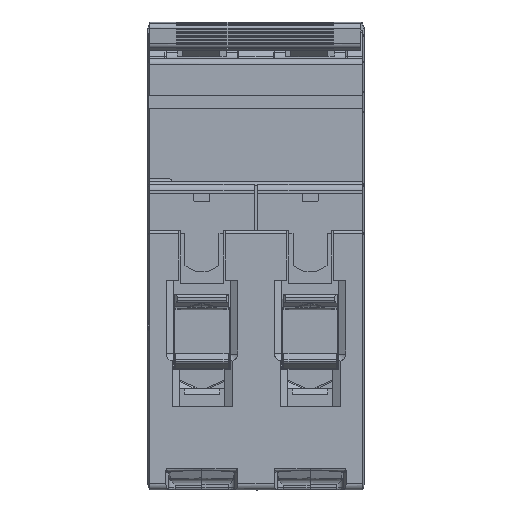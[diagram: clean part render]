
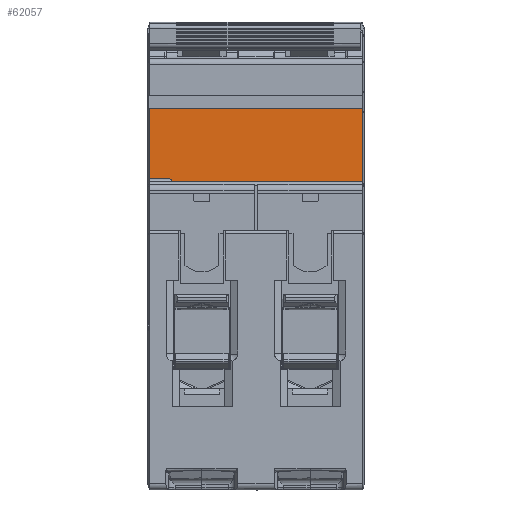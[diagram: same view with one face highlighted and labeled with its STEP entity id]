
A CAD part, front view. The second image highlights one B-rep face of the part: STEP entity #62057.
In plain terms, the highlighted planar face has unit normal (0, -1, 0).
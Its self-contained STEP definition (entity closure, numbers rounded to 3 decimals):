
#1932 = CARTESIAN_POINT ( 'NONE',  ( 28.961, -16.627, 12.604 ) ) ;
#3017 = CARTESIAN_POINT ( 'NONE',  ( 2.361, -16.627, 12.204 ) ) ;
#4422 = EDGE_CURVE ( 'NONE', #67682, #136456, #20298, .T. ) ;
#5695 = LINE ( 'NONE', #70250, #63555 ) ;
#6368 = ORIENTED_EDGE ( 'NONE', *, *, #120881, .T. ) ;
#8524 = ORIENTED_EDGE ( 'NONE', *, *, #97318, .T. ) ;
#8971 = CARTESIAN_POINT ( 'NONE',  ( 32.861, -16.627, 12.604 ) ) ;
#13345 = VERTEX_POINT ( 'NONE', #52852 ) ;
#13646 = ORIENTED_EDGE ( 'NONE', *, *, #80822, .T. ) ;
#15682 = PLANE ( 'NONE',  #71604 ) ;
#16455 = VECTOR ( 'NONE', #53288, 1000. ) ;
#16971 = ORIENTED_EDGE ( 'NONE', *, *, #80694, .T. ) ;
#18480 = ORIENTED_EDGE ( 'NONE', *, *, #132338, .T. ) ;
#19604 = LINE ( 'NONE', #139167, #77013 ) ;
#20298 = LINE ( 'NONE', #65513, #96714 ) ;
#21196 = ORIENTED_EDGE ( 'NONE', *, *, #47691, .T. ) ;
#23131 = VERTEX_POINT ( 'NONE', #3017 ) ;
#24954 = ORIENTED_EDGE ( 'NONE', *, *, #89967, .T. ) ;
#25155 = VECTOR ( 'NONE', #140224, 1000. ) ;
#25397 = VERTEX_POINT ( 'NONE', #107212 ) ;
#26428 = DIRECTION ( 'NONE',  ( 0., 0., 1. ) ) ;
#29536 = CARTESIAN_POINT ( 'NONE',  ( 2.361, -16.627, 11.604 ) ) ;
#30628 = CARTESIAN_POINT ( 'NONE',  ( 11.361, -16.627, 12.604 ) ) ;
#35228 = VERTEX_POINT ( 'NONE', #103164 ) ;
#35250 = DIRECTION ( 'NONE',  ( 0.707, 0., -0.707 ) ) ;
#35625 = ORIENTED_EDGE ( 'NONE', *, *, #4422, .T. ) ;
#38145 = CARTESIAN_POINT ( 'NONE',  ( 19.961, -16.627, 11.604 ) ) ;
#38958 = LINE ( 'NONE', #102172, #95534 ) ;
#39697 = VECTOR ( 'NONE', #35250, 1000. ) ;
#41322 = CARTESIAN_POINT ( 'NONE',  ( 10.961, -16.627, 12.204 ) ) ;
#43627 = VERTEX_POINT ( 'NONE', #111540 ) ;
#44445 = EDGE_CURVE ( 'NONE', #132255, #127754, #94076, .T. ) ;
#44623 = VERTEX_POINT ( 'NONE', #38145 ) ;
#44833 = DIRECTION ( 'NONE',  ( -0.707, 0., 0.707 ) ) ;
#46402 = CARTESIAN_POINT ( 'NONE',  ( 19.961, -16.627, 12.204 ) ) ;
#47279 = EDGE_CURVE ( 'NONE', #136499, #35228, #140833, .T. ) ;
#47383 = LINE ( 'NONE', #78120, #107096 ) ;
#47691 = EDGE_CURVE ( 'NONE', #82266, #132255, #38958, .T. ) ;
#49556 = CARTESIAN_POINT ( 'NONE',  ( 15.461, -16.627, 13.104 ) ) ;
#49723 = ORIENTED_EDGE ( 'NONE', *, *, #120228, .T. ) ;
#49783 = VERTEX_POINT ( 'NONE', #111713 ) ;
#50786 = EDGE_CURVE ( 'NONE', #13345, #90351, #127374, .T. ) ;
#52852 = CARTESIAN_POINT ( 'NONE',  ( 32.861, -16.627, 24.504 ) ) ;
#53288 = DIRECTION ( 'NONE',  ( 0.707, 0., 0.707 ) ) ;
#54407 = ORIENTED_EDGE ( 'NONE', *, *, #142311, .F. ) ;
#54428 = DIRECTION ( 'NONE',  ( 1., 0., 0. ) ) ;
#54485 = VECTOR ( 'NONE', #92239, 1000. ) ;
#55849 = LINE ( 'NONE', #129117, #25155 ) ;
#56335 = CARTESIAN_POINT ( 'NONE',  ( 19.561, -16.627, 12.604 ) ) ;
#56359 = CARTESIAN_POINT ( 'NONE',  ( 32.861, -16.627, -31.296 ) ) ;
#59715 = VERTEX_POINT ( 'NONE', #84973 ) ;
#60695 = CARTESIAN_POINT ( 'NONE',  ( 28.561, -16.627, 12.204 ) ) ;
#62057 = ADVANCED_FACE ( 'NONE', ( #106436 ), #15682, .T. ) ;
#62072 = CARTESIAN_POINT ( 'NONE',  ( 15.461, -16.627, 12.604 ) ) ;
#63555 = VECTOR ( 'NONE', #81480, 1000. ) ;
#65513 = CARTESIAN_POINT ( 'NONE',  ( 15.461, -16.627, 11.604 ) ) ;
#67682 = VERTEX_POINT ( 'NONE', #29536 ) ;
#68204 = ORIENTED_EDGE ( 'NONE', *, *, #47279, .F. ) ;
#68295 = VECTOR ( 'NONE', #109615, 1000. ) ;
#70202 = LINE ( 'NONE', #102890, #39697 ) ;
#70250 = CARTESIAN_POINT ( 'NONE',  ( 19.961, -16.627, 12.604 ) ) ;
#71604 = AXIS2_PLACEMENT_3D ( 'NONE', #62072, #139864, #73564 ) ;
#73564 = DIRECTION ( 'NONE',  ( 1., 0., 0. ) ) ;
#75642 = CARTESIAN_POINT ( 'NONE',  ( 10.961, -16.627, 12.604 ) ) ;
#76565 = VECTOR ( 'NONE', #26428, 1000. ) ;
#77013 = VECTOR ( 'NONE', #106239, 1000. ) ;
#77283 = CARTESIAN_POINT ( 'NONE',  ( 15.461, -16.627, 12.604 ) ) ;
#78120 = CARTESIAN_POINT ( 'NONE',  ( -1.939, -16.627, 12.604 ) ) ;
#79308 = DIRECTION ( 'NONE',  ( 1., 0., 0. ) ) ;
#80694 = EDGE_CURVE ( 'NONE', #126469, #59715, #132943, .T. ) ;
#80822 = EDGE_CURVE ( 'NONE', #90351, #25397, #47383, .T. ) ;
#81480 = DIRECTION ( 'NONE',  ( 0., 0., -1. ) ) ;
#82266 = VERTEX_POINT ( 'NONE', #60695 ) ;
#84973 = CARTESIAN_POINT ( 'NONE',  ( 11.361, -16.627, 12.604 ) ) ;
#85239 = VECTOR ( 'NONE', #127815, 1000. ) ;
#86797 = DIRECTION ( 'NONE',  ( 0., 0., 1. ) ) ;
#87712 = ORIENTED_EDGE ( 'NONE', *, *, #44445, .T. ) ;
#88030 = LINE ( 'NONE', #56359, #54485 ) ;
#88346 = DIRECTION ( 'NONE',  ( 0., 0., -1. ) ) ;
#88673 = LINE ( 'NONE', #49556, #85239 ) ;
#89967 = EDGE_CURVE ( 'NONE', #49783, #23131, #70202, .T. ) ;
#90351 = VERTEX_POINT ( 'NONE', #97454 ) ;
#90640 = EDGE_LOOP ( 'NONE', ( #18480, #24954, #104130, #35625, #8524, #16971, #6368, #68204, #49723, #108389, #129414, #21196, #87712, #54407, #96460, #13646 ) ) ;
#90675 = VECTOR ( 'NONE', #124584, 1000. ) ;
#92239 = DIRECTION ( 'NONE',  ( 0., 0., -1. ) ) ;
#92880 = VECTOR ( 'NONE', #54428, 1000. ) ;
#94076 = LINE ( 'NONE', #113426, #90675 ) ;
#94477 = CARTESIAN_POINT ( 'NONE',  ( 2.361, -16.627, 12.604 ) ) ;
#95534 = VECTOR ( 'NONE', #146744, 1000. ) ;
#96367 = LINE ( 'NONE', #77283, #92880 ) ;
#96460 = ORIENTED_EDGE ( 'NONE', *, *, #50786, .T. ) ;
#96714 = VECTOR ( 'NONE', #79308, 1000. ) ;
#97318 = EDGE_CURVE ( 'NONE', #136456, #126469, #110967, .T. ) ;
#97454 = CARTESIAN_POINT ( 'NONE',  ( -1.939, -16.627, 24.504 ) ) ;
#98515 = CARTESIAN_POINT ( 'NONE',  ( 15.461, -16.627, 24.504 ) ) ;
#102172 = CARTESIAN_POINT ( 'NONE',  ( 28.961, -16.627, 12.604 ) ) ;
#102890 = CARTESIAN_POINT ( 'NONE',  ( 1.461, -16.627, 13.104 ) ) ;
#103164 = CARTESIAN_POINT ( 'NONE',  ( 19.561, -16.627, 12.604 ) ) ;
#104130 = ORIENTED_EDGE ( 'NONE', *, *, #116336, .F. ) ;
#106239 = DIRECTION ( 'NONE',  ( 0., 0., 1. ) ) ;
#106436 = FACE_OUTER_BOUND ( 'NONE', #90640, .T. ) ;
#107096 = VECTOR ( 'NONE', #88346, 1000. ) ;
#107212 = CARTESIAN_POINT ( 'NONE',  ( -1.939, -16.627, 13.104 ) ) ;
#108389 = ORIENTED_EDGE ( 'NONE', *, *, #141461, .F. ) ;
#109615 = DIRECTION ( 'NONE',  ( -1., 0., 0. ) ) ;
#110967 = LINE ( 'NONE', #75642, #140473 ) ;
#111540 = CARTESIAN_POINT ( 'NONE',  ( 28.561, -16.627, 11.604 ) ) ;
#111713 = CARTESIAN_POINT ( 'NONE',  ( 1.461, -16.627, 13.104 ) ) ;
#113426 = CARTESIAN_POINT ( 'NONE',  ( 15.461, -16.627, 12.604 ) ) ;
#116336 = EDGE_CURVE ( 'NONE', #67682, #23131, #121546, .T. ) ;
#118304 = EDGE_CURVE ( 'NONE', #43627, #82266, #19604, .T. ) ;
#120228 = EDGE_CURVE ( 'NONE', #136499, #44623, #5695, .T. ) ;
#120881 = EDGE_CURVE ( 'NONE', #59715, #35228, #96367, .T. ) ;
#121546 = LINE ( 'NONE', #94477, #76565 ) ;
#123285 = CARTESIAN_POINT ( 'NONE',  ( 10.961, -16.627, 11.604 ) ) ;
#124584 = DIRECTION ( 'NONE',  ( 1., 0., 0. ) ) ;
#126469 = VERTEX_POINT ( 'NONE', #41322 ) ;
#127374 = LINE ( 'NONE', #98515, #68295 ) ;
#127754 = VERTEX_POINT ( 'NONE', #8971 ) ;
#127815 = DIRECTION ( 'NONE',  ( 1., 0., 0. ) ) ;
#129117 = CARTESIAN_POINT ( 'NONE',  ( 33.061, -16.627, 11.604 ) ) ;
#129414 = ORIENTED_EDGE ( 'NONE', *, *, #118304, .T. ) ;
#132255 = VERTEX_POINT ( 'NONE', #1932 ) ;
#132338 = EDGE_CURVE ( 'NONE', #25397, #49783, #88673, .T. ) ;
#132943 = LINE ( 'NONE', #30628, #16455 ) ;
#136456 = VERTEX_POINT ( 'NONE', #123285 ) ;
#136499 = VERTEX_POINT ( 'NONE', #46402 ) ;
#137329 = VECTOR ( 'NONE', #44833, 1000. ) ;
#139167 = CARTESIAN_POINT ( 'NONE',  ( 28.561, -16.627, 12.604 ) ) ;
#139864 = DIRECTION ( 'NONE',  ( 0., -1., 0. ) ) ;
#140224 = DIRECTION ( 'NONE',  ( -1., 0., 0. ) ) ;
#140473 = VECTOR ( 'NONE', #86797, 1000. ) ;
#140833 = LINE ( 'NONE', #56335, #137329 ) ;
#141461 = EDGE_CURVE ( 'NONE', #43627, #44623, #55849, .T. ) ;
#142311 = EDGE_CURVE ( 'NONE', #13345, #127754, #88030, .T. ) ;
#146744 = DIRECTION ( 'NONE',  ( 0.707, 0., 0.707 ) ) ;
